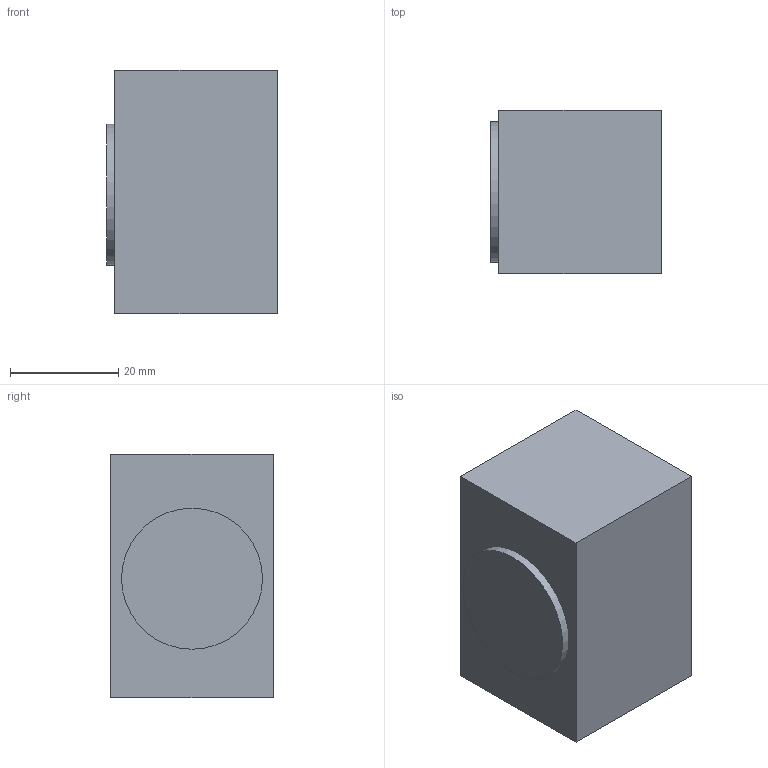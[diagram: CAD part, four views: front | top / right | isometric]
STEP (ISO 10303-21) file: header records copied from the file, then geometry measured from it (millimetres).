
FILE_DESCRIPTION(('Open CASCADE Model'),'2;1');
FILE_NAME('startracker','2026-08-12T02:42:45',('Author'),('Open CASCADE' ),'Open CASCADE STEP processor 7.9','build123d','Unknown');
FILE_SCHEMA(('AUTOMOTIVE_DESIGN { 1 0 10303 214 1 1 1 1 }'));
Length unit declared in the file: millimetre
Products named in the file (3): startracker; COMPOUND
Assembly tree (2 placements, depth 2):
  startracker
    COMPOUND
    COMPOUND
Bounding box: 31.5 x 30 x 45 mm (x, y, z)
Surface area: 8833.6 mm2
Topology: 2 solids, 2 shells, 9 faces, 15 edges, 10 vertices
Faces by surface type: plane 8, cylinder 1
Full cylindrical faces by diameter (mm): 26 x1
Entity records: 450 total; most frequent: DIRECTION 71, CARTESIAN_POINT 67, LINE 41, VECTOR 41, ORIENTED_EDGE 30, PCURVE 30, DEFINITIONAL_REPRESENTATION 30, EDGE_CURVE 15
